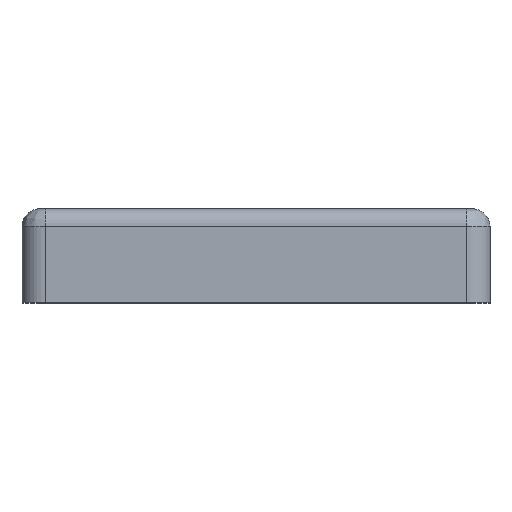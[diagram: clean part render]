
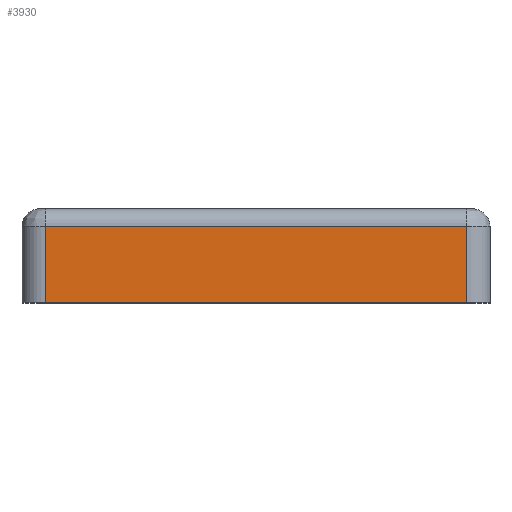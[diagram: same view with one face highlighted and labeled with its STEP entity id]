
A CAD part, top view. The second image highlights one B-rep face of the part: STEP entity #3930.
In plain terms, the highlighted planar face has unit normal (0, 0, 1).
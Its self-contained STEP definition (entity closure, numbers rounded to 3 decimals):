
#218 = EDGE_LOOP ( 'NONE', ( #7809, #2153, #3606, #8006 ) ) ;
#219 = LINE ( 'NONE', #5613, #6120 ) ;
#241 = VECTOR ( 'NONE', #8384, 1000. ) ;
#557 = CARTESIAN_POINT ( 'NONE',  ( 36., 4.999, 48.001 ) ) ;
#2153 = ORIENTED_EDGE ( 'NONE', *, *, #3889, .F. ) ;
#2865 = CARTESIAN_POINT ( 'NONE',  ( -36., 4.999, 48.001 ) ) ;
#2931 = EDGE_CURVE ( 'NONE', #6973, #4100, #4331, .T. ) ;
#3424 = VECTOR ( 'NONE', #6062, 1000. ) ;
#3484 = DIRECTION ( 'NONE',  ( 1., 0., 0. ) ) ;
#3606 = ORIENTED_EDGE ( 'NONE', *, *, #7681, .F. ) ;
#3730 = CARTESIAN_POINT ( 'NONE',  ( -36., -8.001, 48.001 ) ) ;
#3825 = VERTEX_POINT ( 'NONE', #2865 ) ;
#3889 = EDGE_CURVE ( 'NONE', #8775, #3825, #9568, .T. ) ;
#3930 = ADVANCED_FACE ( 'NONE', ( #5218 ), #7621, .F. ) ;
#4100 = VERTEX_POINT ( 'NONE', #6477 ) ;
#4331 = LINE ( 'NONE', #9166, #241 ) ;
#4556 = DIRECTION ( 'NONE',  ( -1., 0., 0. ) ) ;
#4894 = EDGE_CURVE ( 'NONE', #3825, #6973, #8706, .T. ) ;
#5218 = FACE_OUTER_BOUND ( 'NONE', #218, .T. ) ;
#5613 = CARTESIAN_POINT ( 'NONE',  ( -40., -8.001, 48.001 ) ) ;
#5912 = AXIS2_PLACEMENT_3D ( 'NONE', #8401, #9194, #4556 ) ;
#6062 = DIRECTION ( 'NONE',  ( 0., 1., 0. ) ) ;
#6120 = VECTOR ( 'NONE', #6397, 1000. ) ;
#6397 = DIRECTION ( 'NONE',  ( -1., 0., 0. ) ) ;
#6477 = CARTESIAN_POINT ( 'NONE',  ( 36., -8.001, 48.001 ) ) ;
#6973 = VERTEX_POINT ( 'NONE', #557 ) ;
#7621 = PLANE ( 'NONE',  #5912 ) ;
#7681 = EDGE_CURVE ( 'NONE', #4100, #8775, #219, .T. ) ;
#7809 = ORIENTED_EDGE ( 'NONE', *, *, #4894, .F. ) ;
#8006 = ORIENTED_EDGE ( 'NONE', *, *, #2931, .F. ) ;
#8384 = DIRECTION ( 'NONE',  ( 0., -1., 0. ) ) ;
#8401 = CARTESIAN_POINT ( 'NONE',  ( 40., 7.999, 48.001 ) ) ;
#8477 = VECTOR ( 'NONE', #3484, 1000. ) ;
#8706 = LINE ( 'NONE', #9645, #8477 ) ;
#8775 = VERTEX_POINT ( 'NONE', #3730 ) ;
#9166 = CARTESIAN_POINT ( 'NONE',  ( 36., 7.999, 48.001 ) ) ;
#9194 = DIRECTION ( 'NONE',  ( 0., 0., -1. ) ) ;
#9568 = LINE ( 'NONE', #9920, #3424 ) ;
#9645 = CARTESIAN_POINT ( 'NONE',  ( -40., 4.999, 48.001 ) ) ;
#9920 = CARTESIAN_POINT ( 'NONE',  ( -36., 7.999, 48.001 ) ) ;
